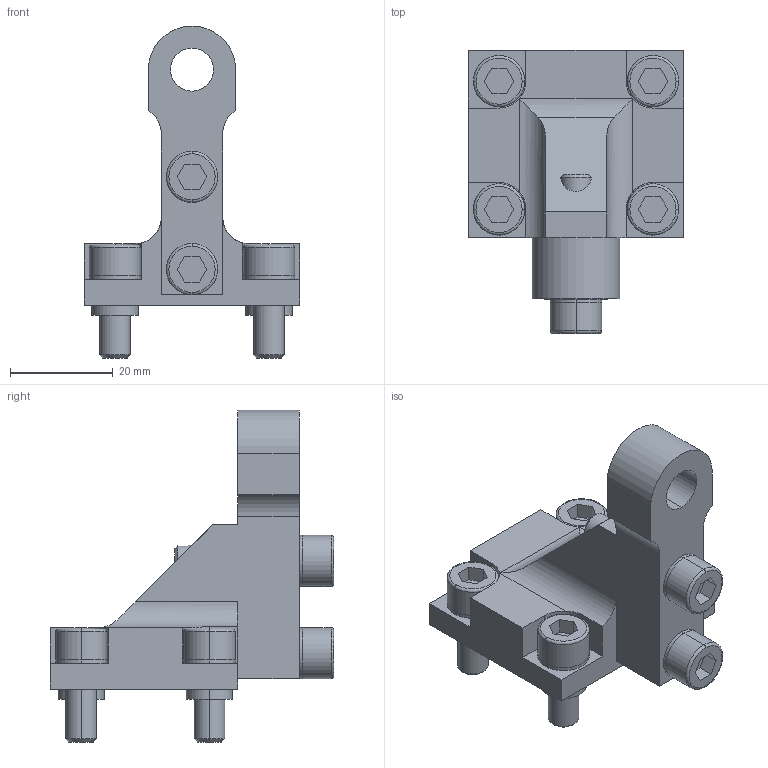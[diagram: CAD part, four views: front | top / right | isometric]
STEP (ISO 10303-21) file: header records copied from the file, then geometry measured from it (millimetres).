
FILE_DESCRIPTION (( 'STEP AP214' ), '1' );
FILE_NAME ('867.1-42-M10-E-NC.step', '2023-08-01T13:22:21', ( '' ), ( '' ), 'SwSTEP 2.0', 'SolidWorks 2022', '' );
FILE_SCHEMA (( 'AUTOMOTIVE_DESIGN' ));
Length unit declared in the file: millimetre
Products named in the file (1): 867.1-42-M10-E-NC
Bounding box: 42 x 55.2 x 64.7 mm (x, y, z)
Volume: 30501.7 mm3; surface area: 11273.2 mm2
Topology: 1 solids, 3 shells, 176 faces, 409 edges, 266 vertices
Faces by surface type: plane 94, cylinder 61, torus 12, cone 9
Entity records: 6522 total; most frequent: DIRECTION 904, CARTESIAN_POINT 891, ORIENTED_EDGE 818, EDGE_CURVE 409, AXIS2_PLACEMENT_3D 327, VERTEX_POINT 266, LINE 250, VECTOR 250
